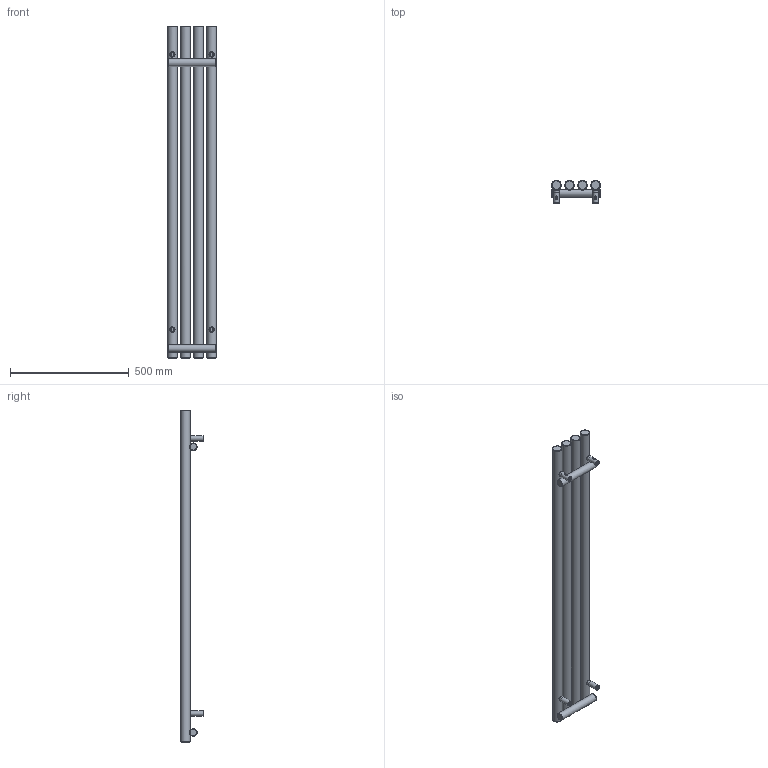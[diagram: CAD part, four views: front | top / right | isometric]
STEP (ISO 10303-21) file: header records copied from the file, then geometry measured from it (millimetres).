
FILE_DESCRIPTION(/* description */ (''),/* implementation_level */ '2;1');
FILE_NAME(/* name */ 'Z:\R\G\P\RGP116 - Grzejniki Geyser\Work\Inventor\Circolo (Rolo V, Rolo H)\ROLO-ROOM\Marketing\Bryły 3D\Zaokrąglone\WLROR140020-ES-CK-(Z).stp',/* time_stamp */ '2024-04-03T08:59:50+02:00',/* author */ ('NowAd'),/* organization */ (''),/* preprocessor_version */ 'ST-DEVELOPER v17.2',/* originating_system */ 'Autodesk Inventor 2019',/* authorisation */ '');
FILE_SCHEMA (('AUTOMOTIVE_DESIGN { 1 0 10303 214 3 1 1 }'));
Length unit declared in the file: millimetre
Products named in the file (3): WLROR140020-ES-CK-(Z); PGROR140020-ES-CK-(K); CK-V-fi40 marketing
Assembly tree (5 placements, depth 2):
  WLROR140020-ES-CK-(Z)
    PGROR140020-ES-CK-(K)
    CK-V-fi40 marketing  x4
Bounding box: 205 x 96.5 x 1400 mm (x, y, z)
Volume: 7408859.9 mm3; surface area: 785419.5 mm2
Topology: 5 solids, 5 shells, 310 faces, 784 edges, 524 vertices
Faces by surface type: plane 130, cylinder 72, cone 60, torus 40, bspline 8
Full cylindrical faces by diameter (mm): 4.134 x4, 4.48 x4, 6.4 x4, 10 x4, 12 x4, 15.834 x4, 16 x4, 18.631 x2, 22 x4, 32 x2, 40 x4
Entity records: 5747 total; most frequent: CARTESIAN_POINT 2664, DIRECTION 645, ORIENTED_EDGE 606, EDGE_CURVE 303, AXIS2_PLACEMENT_3D 286, VERTEX_POINT 206, EDGE_LOOP 161, CIRCLE 151
